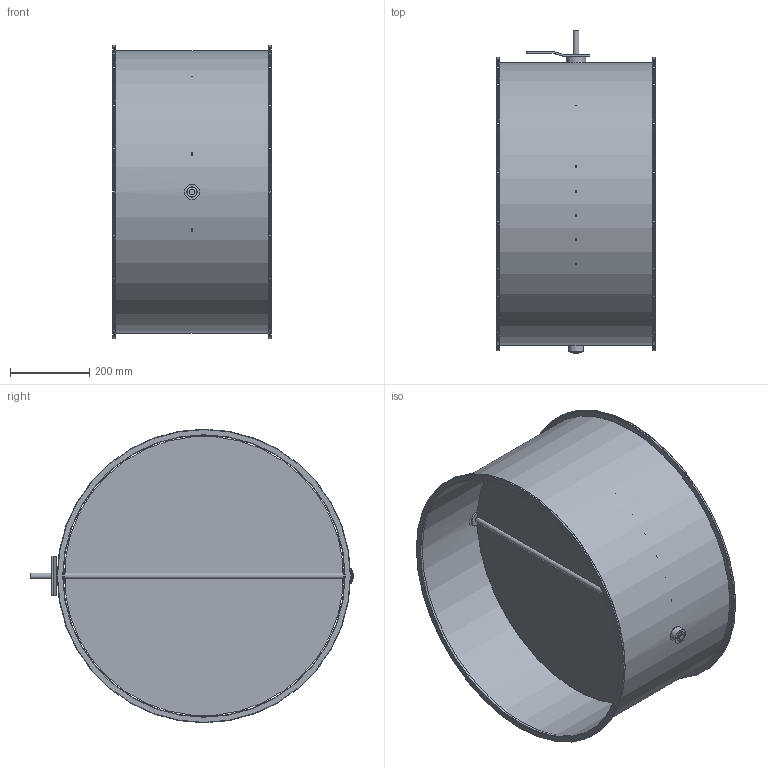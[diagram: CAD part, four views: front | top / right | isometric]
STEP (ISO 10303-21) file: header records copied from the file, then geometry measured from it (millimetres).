
FILE_DESCRIPTION(/* description */ (''),/* implementation_level */ '2;1');
FILE_NAME(/* name */ 'EA114-80B__710_L400_Belimo_Typ_SM.stp',/* time_stamp */ '2017-12-07T11:00:49+01:00',/* author */ (''),/* organization */ (''),/* preprocessor_version */ 'ST-DEVELOPER v11',/* originating_system */ 'SIEMENS UGS NX 6.0',/* authorisation */ '');
FILE_SCHEMA (('CONFIG_CONTROL_DESIGN'));
Length unit declared in the file: millimetre
Products named in the file (1): gars5544kxam
Bounding box: 400 x 814 x 740 mm (x, y, z)
Volume: 2074773.8 mm3; surface area: 2779771.8 mm2
Topology: 8 solids, 8 shells, 79 faces, 167 edges, 106 vertices
Faces by surface type: plane 36, cylinder 35, torus 6, cone 2
Full cylindrical faces by diameter (mm): 6.1 x7, 15 x3, 25 x3, 25.85 x2, 26 x2, 38 x3, 49 x1, 710 x1, 712 x1, 740 x2
Entity records: 2062 total; most frequent: CARTESIAN_POINT 368, DIRECTION 352, ORIENTED_EDGE 248, AXIS2_PLACEMENT_3D 152, EDGE_LOOP 144, EDGE_CURVE 124, FACE_BOUND 114, VERTEX_POINT 96
